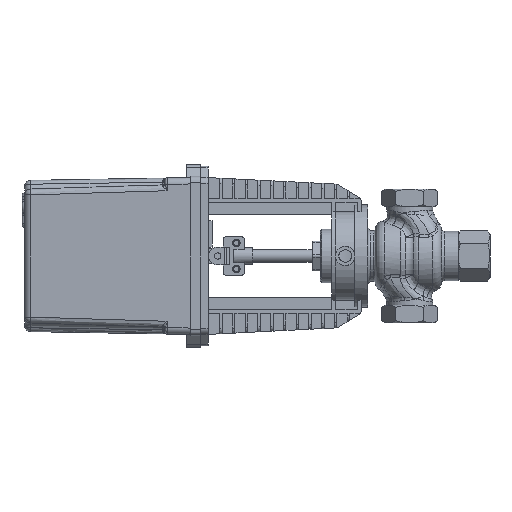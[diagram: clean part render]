
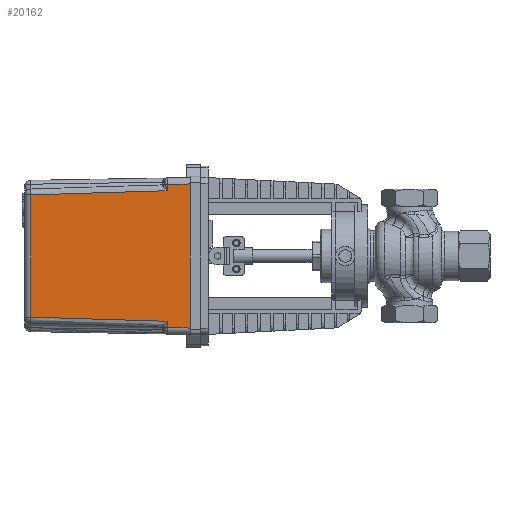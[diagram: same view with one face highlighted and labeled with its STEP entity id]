
A CAD part, left-side view. The second image highlights one B-rep face of the part: STEP entity #20162.
In plain terms, the highlighted planar face has unit normal (-1, 0.018, 0).
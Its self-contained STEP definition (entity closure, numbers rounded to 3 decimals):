
#871=B_SPLINE_CURVE_WITH_KNOTS('',3,(#37169,#37170,#37171,#37172),
 .UNSPECIFIED.,.F.,.F.,(4,4),(11.498,11.695),
 .UNSPECIFIED.);
#872=B_SPLINE_CURVE_WITH_KNOTS('',3,(#37173,#37174,#37175,#37176),
 .UNSPECIFIED.,.F.,.F.,(4,4),(-11.498,-0.983),
 .UNSPECIFIED.);
#875=B_SPLINE_CURVE_WITH_KNOTS('',3,(#37219,#37220,#37221,#37222),
 .UNSPECIFIED.,.F.,.F.,(4,4),(-13.025,-2.51),
 .UNSPECIFIED.);
#876=B_SPLINE_CURVE_WITH_KNOTS('',3,(#37223,#37224,#37225,#37226),
 .UNSPECIFIED.,.F.,.F.,(4,4),(2.314,2.51),
 .UNSPECIFIED.);
#1304=PLANE('',#21639);
#2358=FACE_OUTER_BOUND('',#3484,.T.);
#3484=EDGE_LOOP('',(#16346,#16347,#16348,#16349,#16350,#16351,#16352,#16353,
#16354,#16355));
#4934=LINE('',#35685,#6608);
#4941=LINE('',#36610,#6615);
#5009=LINE('',#36888,#6683);
#5062=LINE('',#37193,#6736);
#5063=LINE('',#37400,#6737);
#5064=LINE('',#37401,#6738);
#6608=VECTOR('',#24912,10.);
#6615=VECTOR('',#25019,10.);
#6683=VECTOR('',#25229,10.);
#6736=VECTOR('',#25344,10.);
#6737=VECTOR('',#25395,10.);
#6738=VECTOR('',#25396,10.);
#9080=VERTEX_POINT('',#35470);
#9092=VERTEX_POINT('',#35683);
#9138=VERTEX_POINT('',#36523);
#9141=VERTEX_POINT('',#36606);
#9236=VERTEX_POINT('',#36887);
#9313=VERTEX_POINT('',#37145);
#9314=VERTEX_POINT('',#37168);
#9317=VERTEX_POINT('',#37189);
#9318=VERTEX_POINT('',#37218);
#9322=VERTEX_POINT('',#37399);
#11528=EDGE_CURVE('',#9092,#9080,#4934,.T.);
#11610=EDGE_CURVE('',#9138,#9141,#4941,.T.);
#11728=EDGE_CURVE('',#9141,#9236,#5009,.T.);
#11821=EDGE_CURVE('',#9314,#9080,#871,.T.);
#11822=EDGE_CURVE('',#9314,#9313,#872,.T.);
#11830=EDGE_CURVE('',#9313,#9317,#5062,.T.);
#11832=EDGE_CURVE('',#9317,#9318,#875,.T.);
#11833=EDGE_CURVE('',#9138,#9318,#876,.T.);
#11853=EDGE_CURVE('',#9322,#9092,#5063,.T.);
#11854=EDGE_CURVE('',#9236,#9322,#5064,.T.);
#16346=ORIENTED_EDGE('',*,*,#11528,.F.);
#16347=ORIENTED_EDGE('',*,*,#11853,.F.);
#16348=ORIENTED_EDGE('',*,*,#11854,.F.);
#16349=ORIENTED_EDGE('',*,*,#11728,.F.);
#16350=ORIENTED_EDGE('',*,*,#11610,.F.);
#16351=ORIENTED_EDGE('',*,*,#11833,.T.);
#16352=ORIENTED_EDGE('',*,*,#11832,.F.);
#16353=ORIENTED_EDGE('',*,*,#11830,.F.);
#16354=ORIENTED_EDGE('',*,*,#11822,.F.);
#16355=ORIENTED_EDGE('',*,*,#11821,.T.);
#20162=ADVANCED_FACE('',(#2358),#1304,.T.);
#21639=AXIS2_PLACEMENT_3D('',#37398,#25393,#25394);
#24912=DIRECTION('',(0.,0.,1.));
#25019=DIRECTION('',(0.,0.,1.));
#25229=DIRECTION('',(-0.017,-1.,0.017));
#25344=DIRECTION('',(0.,0.,1.));
#25393=DIRECTION('center_axis',(-1.,0.017,0.));
#25394=DIRECTION('ref_axis',(0.,0.,
1.));
#25395=DIRECTION('',(0.017,1.,0.017));
#25396=DIRECTION('',(0.,0.,-1.));
#35470=CARTESIAN_POINT('',(-61.185,190.035,-51.199));
#35683=CARTESIAN_POINT('',(-61.185,190.035,-56.186));
#35685=CARTESIAN_POINT('',(-61.185,190.035,1.135));
#36523=CARTESIAN_POINT('',(-61.185,190.035,51.199));
#36606=CARTESIAN_POINT('',(-61.185,190.035,56.186));
#36610=CARTESIAN_POINT('',(-61.185,190.035,60.365));
#36887=CARTESIAN_POINT('',(-61.5,172.,56.501));
#36888=CARTESIAN_POINT('',(-61.483,172.986,56.484));
#37145=CARTESIAN_POINT('',(-59.317,297.087,-47.924));
#37168=CARTESIAN_POINT('',(-61.151,192.,-51.138));
#37169=CARTESIAN_POINT('Ctrl Pts',(-61.151,192.,-51.138));
#37170=CARTESIAN_POINT('Ctrl Pts',(-61.162,191.345,-51.158));
#37171=CARTESIAN_POINT('Ctrl Pts',(-61.174,190.69,-51.178));
#37172=CARTESIAN_POINT('Ctrl Pts',(-61.185,190.035,-51.199));
#37173=CARTESIAN_POINT('Ctrl Pts',(-61.151,192.,-51.138));
#37174=CARTESIAN_POINT('Ctrl Pts',(-60.539,227.029,-50.062));
#37175=CARTESIAN_POINT('Ctrl Pts',(-59.928,262.058,-48.992));
#37176=CARTESIAN_POINT('Ctrl Pts',(-59.317,297.087,-47.924));
#37189=CARTESIAN_POINT('',(-59.317,297.087,47.924));
#37193=CARTESIAN_POINT('',(-59.317,297.087,30.75));
#37218=CARTESIAN_POINT('',(-61.151,192.,51.138));
#37219=CARTESIAN_POINT('Ctrl Pts',(-59.317,297.087,47.924));
#37220=CARTESIAN_POINT('Ctrl Pts',(-59.928,262.058,48.992));
#37221=CARTESIAN_POINT('Ctrl Pts',(-60.539,227.029,50.062));
#37222=CARTESIAN_POINT('Ctrl Pts',(-61.151,192.,51.138));
#37223=CARTESIAN_POINT('Ctrl Pts',(-61.185,190.035,51.199));
#37224=CARTESIAN_POINT('Ctrl Pts',(-61.174,190.69,51.178));
#37225=CARTESIAN_POINT('Ctrl Pts',(-61.162,191.345,51.158));
#37226=CARTESIAN_POINT('Ctrl Pts',(-61.151,192.,51.138));
#37398=CARTESIAN_POINT('Origin',(-61.5,172.,61.5));
#37399=CARTESIAN_POINT('',(-61.5,172.,-56.501));
#37400=CARTESIAN_POINT('',(-61.483,172.986,-56.484));
#37401=CARTESIAN_POINT('',(-61.5,172.,30.75));
